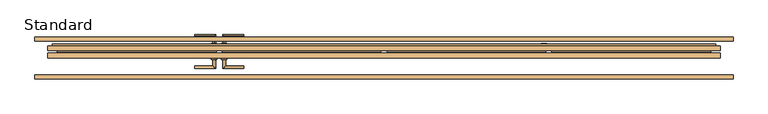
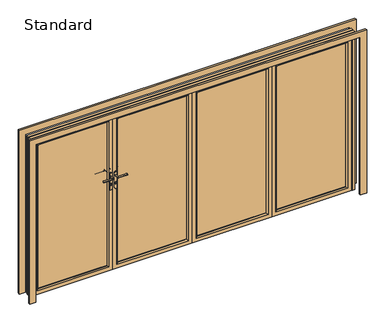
"""IFC4 building model written with IfcOpenShell, lengths in millimetres: door geometry, SMARTS_Visofold1000 : Standard."""

from ifc_helpers import new_model, si_unit, point, frame, frame_2d, origin, place, context, project, spatial, polyline, circle_curve, ellipse_curve, trimmed, segment, composite_curve, outline, extrude, faceted_brep, source, transform, mapped, element, save
from ifc_brep_helpers import plane_surface, cylinder_surface, advanced_brep


def standard_14ae69b2(model_context):
    return source(origin(), model_context, "Body", "SolidModel", [
        extrude(outline(composite_curve([segment(polyline([(1228.0996413, 934.0), (1040.0996413, 934.0)]), True, "CONTINUOUS"), segment(trimmed(circle_curve(frame_2d((1040.0996413, 950.0)), 16.0), [point((1040.0996413, 934.0))], [point((1040.0996413, 966.0))], False, "CARTESIAN"), True, "CONTINUOUS"), segment(polyline([(1040.0996413, 966.0), (1228.0996413, 966.0)]), True, "CONTINUOUS"), segment(trimmed(circle_curve(frame_2d((1228.0996413, 950.0)), 16.0), [point((1228.0996413, 966.0))], [point((1228.0996413, 934.0))], False, "CARTESIAN"), True, "CONTINUOUS")], self_intersect=False)), frame((0.0, 75.0, 0.0), z_axis=(0.0, 1.0, 0.0), x_axis=(0.0, 0.0, 1.0)), (0.0, 0.0, 1.0), 10.0),
        extrude(outline(polyline([(45.0, 935.0), (1955.0, 935.0), (1955.0, 45.0), (45.0, 45.0), (45.0, 935.0)]), holes=[polyline([(1939.5, 919.5), (60.5, 919.5), (60.5, 60.5), (1939.5, 60.5), (1939.5, 919.5)])]), frame((0.0, 17.4, 0.0), z_axis=(0.0, 1.0, 0.0), x_axis=(0.0, 0.0, 1.0)), (0.0, 0.0, 1.0), 35.0),
        faceted_brep([(980.0, 74.4, 0.0), (980.0, 74.4, 2000.0), (980.0, 52.4, 2000.0), (980.0, 52.4, 0.0), (919.5, 52.4, 60.5), (919.5, 52.4, 1939.5), (919.5, 74.4, 1939.5), (919.5, 74.4, 60.5), (0.0, 74.4, 2000.0), (0.0, 52.4, 2000.0), (60.5, 52.4, 1939.5), (60.5, 74.4, 1939.5), (0.0, 74.4, 0.0), (0.0, 52.4, 0.0), (60.5, 52.4, 60.5), (60.5, 74.4, 60.5), (962.1308519, 34.8, 17.8691481), (962.1308519, 34.8, 1982.1308519), (17.8691481, 34.8, 1982.1308519), (17.8691481, 34.8, 17.8691481), (935.0, 34.8, 1955.0), (935.0, 34.8, 45.0), (45.0, 34.8, 45.0), (45.0, 34.8, 1955.0), (962.1308519, 52.4, 17.8691481), (962.1308519, 52.4, 1982.1308519), (935.0, 52.4, 1955.0), (935.0, 52.4, 45.0), (17.8691481, 52.4, 1982.1308519), (45.0, 52.4, 1955.0), (17.8691481, 52.4, 17.8691481), (45.0, 52.4, 45.0)], [[[0, 1, 2, 3]], [[4, 5, 6, 7]], [[1, 8, 9, 2]], [[5, 10, 11, 6]], [[8, 12, 13, 9]], [[10, 14, 15, 11]], [[12, 0, 3, 13]], [[1, 0, 12, 8], [7, 6, 11, 15]], [[14, 4, 7, 15]], [[16, 17, 18, 19], [20, 21, 22, 23]], [[24, 25, 17, 16]], [[21, 20, 26, 27]], [[25, 28, 18, 17]], [[20, 23, 29, 26]], [[28, 30, 19, 18]], [[23, 22, 31, 29]], [[30, 24, 16, 19]], [[3, 2, 9, 13], [25, 24, 30, 28]], [[27, 26, 29, 31], [5, 4, 14, 10]], [[22, 21, 27, 31]]]),
        advanced_brep(
        [(919.5, 13.3, 60.5), (919.5, 13.3, 1939.5), (919.5, 17.4, 1939.5), (919.5, 17.4, 60.5), (980.0, 17.4, 0.0), (980.0, 17.4, 2000.0), (980.0, 0.0, 2000.0), (980.0, 0.0, 0.0), (60.5, 13.3, 1939.5), (60.5, 17.4, 1939.5), (0.0, 17.4, 2000.0), (0.0, 0.0, 2000.0), (60.5, 13.3, 60.5), (60.5, 17.4, 60.5), (0.0, 17.4, 0.0), (0.0, 0.0, 0.0), (932.8, 0.0, 1952.8), (932.8, 0.0, 47.2), (47.2, 0.0, 47.2), (47.2, 0.0, 1952.8), (962.1308519, 34.8, 17.8691481), (962.1308519, 34.8, 1982.1308519), (962.1308519, 17.4, 1982.1308519), (962.1308519, 17.4, 17.8691481), (17.8691481, 34.8, 1982.1308519), (17.8691481, 17.4, 1982.1308519), (17.8691481, 34.8, 17.8691481), (17.8691481, 17.4, 17.8691481), (935.0, 17.4, 45.0), (935.0, 17.4, 1955.0), (935.0, 34.8, 1955.0), (935.0, 34.8, 45.0), (45.0, 17.4, 1955.0), (45.0, 34.8, 1955.0), (45.0, 17.4, 45.0), (45.0, 34.8, 45.0)],
        [
            (0, 1),
            (1, 2),
            (2, 3),
            (3, 0),
            (4, 5),
            (5, 6),
            (6, 7),
            (7, 4),
            (1, 8),
            (8, 9),
            (9, 2),
            (5, 10),
            (10, 11),
            (11, 6),
            (8, 12),
            (12, 13),
            (13, 9),
            (10, 14),
            (14, 15),
            (15, 11),
            (12, 0),
            (3, 13),
            (15, 7),
            (16, 17),
            (17, 18),
            (18, 19),
            (19, 16),
            (14, 4),
            (16, 1, ellipse_curve(frame((932.8, 13.3, 1952.8), z_axis=(0.707106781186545, 0.0, -0.7071067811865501), x_axis=(-0.7071067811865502, 0.0, -0.7071067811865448)), 18.8090404, 13.3)),
            (0, 17, ellipse_curve(frame((932.8, 13.3, 47.2), z_axis=(0.70710678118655, 0.0, 0.707106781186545), x_axis=(0.7071067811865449, 0.0, -0.7071067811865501)), 18.8090404, 13.3)),
            (19, 8, ellipse_curve(frame((47.2, 13.3, 1952.8), z_axis=(0.7071067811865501, 0.0, 0.707106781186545), x_axis=(0.7071067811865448, 0.0, -0.7071067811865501)), 18.8090404, 13.3)),
            (18, 12, ellipse_curve(frame((47.2, 13.3, 47.2), z_axis=(-0.707106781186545, 0.0, 0.7071067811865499), x_axis=(0.7071067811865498, 0.0, 0.7071067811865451)), 18.8090404, 13.3)),
            (20, 21),
            (21, 22),
            (22, 23),
            (23, 20),
            (21, 24),
            (24, 25),
            (25, 22),
            (24, 26),
            (26, 27),
            (27, 25),
            (27, 23),
            (26, 20),
            (28, 29),
            (29, 30),
            (30, 31),
            (31, 28),
            (29, 32),
            (32, 33),
            (33, 30),
            (32, 34),
            (34, 35),
            (35, 33),
            (34, 28),
            (31, 35),
        ],
        [
            plane_surface(frame((919.5, 17.4, 60.5), z_axis=(-1.0, 0.0, 0.0), x_axis=(0.0, 0.0, 1.0))),
            plane_surface(frame((980.0, 0.0, 0.0), z_axis=(1.0, 0.0, 0.0), x_axis=(0.0, 0.0, 1.0))),
            plane_surface(frame((919.5, 17.4, 1939.5), z_axis=(0.0, 0.0, -1.0), x_axis=(-1.0, 0.0, 0.0))),
            plane_surface(frame((980.0, 0.0, 2000.0), z_axis=(0.0, 0.0, 1.0), x_axis=(-1.0, 0.0, 0.0))),
            plane_surface(frame((60.5, 17.4, 1939.5), z_axis=(1.0, 0.0, 0.0), x_axis=(0.0, 0.0, -1.0))),
            plane_surface(frame((0.0, 0.0, 2000.0), z_axis=(-1.0, 0.0, 0.0), x_axis=(0.0, 0.0, -1.0))),
            plane_surface(frame((60.5, 17.4, 60.5), z_axis=(0.0, 0.0, 1.0), x_axis=(1.0, 0.0, 0.0))),
            plane_surface(frame((47.2, 0.0, 47.2), z_axis=(0.0, -1.0, 0.0), x_axis=(1.0, 0.0, 0.0))),
            plane_surface(frame((0.0, 0.0, 0.0), z_axis=(0.0, 0.0, -1.0), x_axis=(1.0, 0.0, 0.0))),
            cylinder_surface(frame((932.8, 13.3, 0.0), z_axis=(0.0, 0.0, -1.0), x_axis=(0.0, 1.0, 0.0)), 13.3),
            cylinder_surface(frame((980.0, 13.3, 1952.8), z_axis=(1.0, 0.0, 0.0), x_axis=(0.0, 1.0, 0.0)), 13.3),
            cylinder_surface(frame((47.2, 13.3, 2000.0), z_axis=(0.0, 0.0, 1.0), x_axis=(0.0, 1.0, 0.0)), 13.3),
            cylinder_surface(frame((0.0, 13.3, 47.2), z_axis=(-1.0, 0.0, 0.0), x_axis=(0.0, 1.0, 0.0)), 13.3),
            plane_surface(frame((962.1308519, 17.4, 17.8691481), z_axis=(1.0, 0.0, 0.0), x_axis=(0.0, 0.0, 1.0))),
            plane_surface(frame((962.1308519, 17.4, 1982.1308519), z_axis=(0.0, 0.0, 1.0), x_axis=(-1.0, 0.0, 0.0))),
            plane_surface(frame((17.8691481, 17.4, 1982.1308519), z_axis=(-1.0, 0.0, 0.0), x_axis=(0.0, 0.0, -1.0))),
            plane_surface(frame((0.0, 17.4, 0.0), z_axis=(0.0, 1.0, 0.0), x_axis=(1.0, 0.0, 0.0))),
            plane_surface(frame((17.8691481, 17.4, 17.8691481), z_axis=(0.0, 0.0, -1.0), x_axis=(1.0, 0.0, 0.0))),
            plane_surface(frame((935.0, 34.8, 45.0), z_axis=(-1.0, 0.0, 0.0), x_axis=(0.0, 0.0, 1.0))),
            plane_surface(frame((935.0, 34.8, 1955.0), z_axis=(0.0, 0.0, -1.0), x_axis=(-1.0, 0.0, 0.0))),
            plane_surface(frame((45.0, 34.8, 1955.0), z_axis=(1.0, 0.0, 0.0), x_axis=(0.0, 0.0, -1.0))),
            plane_surface(frame((45.0, 34.8, 45.0), z_axis=(0.0, 0.0, 1.0), x_axis=(1.0, 0.0, 0.0))),
            plane_surface(frame((45.0, 17.4, 45.0), z_axis=(0.0, 1.0, 0.0), x_axis=(1.0, 0.0, 0.0))),
            plane_surface(frame((17.8691481, 34.8, 17.8691481), z_axis=(0.0, 1.0, 0.0), x_axis=(1.0, 0.0, 0.0))),
        ],
        [
            (0, [[1, 2, 3, 4]]),
            (1, [[5, 6, 7, 8]]),
            (2, [[9, 10, 11, -2]]),
            (3, [[12, 13, 14, -6]]),
            (4, [[15, 16, 17, -10]]),
            (5, [[18, 19, 20, -13]]),
            (6, [[21, -4, 22, -16]]),
            (7, [[-7, -14, -20, 23], [24, 25, 26, 27]]),
            (8, [[28, -8, -23, -19]]),
            (9, [[-24, 29, -1, 30]]),
            (10, [[-27, 31, -9, -29]]),
            (11, [[-26, 32, -15, -31]]),
            (12, [[-25, -30, -21, -32]]),
            (13, [[33, 34, 35, 36]]),
            (14, [[37, 38, 39, -34]]),
            (15, [[40, 41, 42, -38]]),
            (16, [[-5, -28, -18, -12], [-35, -39, -42, 43]]),
            (17, [[44, -36, -43, -41]]),
            (18, [[45, 46, 47, 48]]),
            (19, [[49, 50, 51, -46]]),
            (20, [[52, 53, 54, -50]]),
            (21, [[55, -48, 56, -53]]),
            (22, [[-45, -55, -52, -49], [-3, -11, -17, -22]]),
            (23, [[-33, -44, -40, -37], [-47, -51, -54, -56]]),
        ],
    ),
        extrude(outline(polyline([(919.5, 50.1484783), (919.5, 21.4), (60.5, 21.4), (60.5, 50.1484783), (919.5, 50.1484783)])), frame((0.0, 0.0, 60.5), z_axis=(0.0, 0.0, 1.0), x_axis=(1.0, 0.0, 0.0)), (0.0, 0.0, 1.0), 1879.0),
        advanced_brep(
        [(-950.0, 75.0, 1232.5996413), (-950.0, 75.0, 1215.5996413), (-950.0, 130.0, 1215.5996413), (-950.0, 130.0, 1232.5996413), (-835.0, 130.0, 1232.5996413), (-835.0, 130.0, 1215.5996413)],
        [
            (0, 1, circle_curve(frame((-950.0, 75.0, 1224.0996413), z_axis=(0.0, -1.0, 0.0), x_axis=(0.0, 0.0, -1.0)), 8.5)),
            (1, 0, circle_curve(frame((-950.0, 75.0, 1224.0996413), z_axis=(0.0, -1.0, 0.0), x_axis=(0.0, 0.0, -1.0)), 8.5)),
            (1, 2),
            (2, 3, ellipse_curve(frame((-950.0, 130.0, 1224.0996413), z_axis=(-0.7071067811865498, -0.7071067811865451, 0.0), x_axis=(0.707106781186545, -0.70710678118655, 0.0)), 12.0208153, 8.5)),
            (3, 0),
            (3, 2, ellipse_curve(frame((-950.0, 130.0, 1224.0996413), z_axis=(-0.7071067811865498, -0.7071067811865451, 0.0), x_axis=(0.707106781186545, -0.70710678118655, 0.0)), 12.0208153, 8.5)),
            (4, 5, circle_curve(frame((-835.0, 130.0, 1224.0996413), z_axis=(1.0, 0.0, 0.0), x_axis=(0.0, 0.0, -1.0)), 8.5)),
            (5, 4, circle_curve(frame((-835.0, 130.0, 1224.0996413), z_axis=(1.0, 0.0, 0.0), x_axis=(0.0, 0.0, -1.0)), 8.5)),
            (2, 5),
            (4, 3),
        ],
        [
            plane_surface(frame((-950.0, 75.0, 1224.0996413), z_axis=(0.0, -1.0, 0.0), x_axis=(0.0, 0.0, -1.0))),
            cylinder_surface(frame((-950.0, 75.0, 1224.0996413), z_axis=(0.0, -1.0, 0.0), x_axis=(0.0, 0.0, -1.0)), 8.5),
            plane_surface(frame((-835.0, 130.0, 1224.0996413), z_axis=(1.0, 0.0, 0.0), x_axis=(0.0, 0.0, -1.0))),
            cylinder_surface(frame((-950.0, 130.0, 1224.0996413), z_axis=(-1.0, 0.0, 0.0), x_axis=(0.0, 0.0, -1.0)), 8.5),
        ],
        [
            (0, [[1, 2]]),
            (1, [[-2, 3, 4, 5]]),
            (1, [[-1, -5, 6, -3]]),
            (2, [[7, 8]]),
            (3, [[-4, 9, -7, 10]]),
            (3, [[-6, -10, -8, -9]]),
        ],
    ),
        extrude(outline(composite_curve([segment(trimmed(circle_curve(frame_2d((1258.0996413, -950.0)), 16.0), [point((1258.0996413, -934.0))], [point((1258.0996413, -966.0))], False, "CARTESIAN"), True, "CONTINUOUS"), segment(polyline([(1258.0996413, -966.0), (1070.0996413, -966.0)]), True, "CONTINUOUS"), segment(trimmed(circle_curve(frame_2d((1070.0996413, -950.0)), 16.0), [point((1070.0996413, -966.0))], [point((1070.0996413, -934.0))], False, "CARTESIAN"), True, "CONTINUOUS"), segment(polyline([(1070.0996413, -934.0), (1258.0996413, -934.0)]), True, "CONTINUOUS")], self_intersect=False)), frame((0.0, 75.0, 0.0), z_axis=(0.0, 1.0, 0.0), x_axis=(0.0, 0.0, 1.0)), (0.0, 0.0, 1.0), 10.0),
        advanced_brep(
        [(-941.5, 0.0, 1224.0996413), (-958.5, 0.0, 1224.0996413), (-941.5, -46.5, 1224.0996413), (-958.5, -63.5, 1224.0996413), (-835.0, -46.5, 1224.0996413), (-835.0, -63.5, 1224.0996413)],
        [
            (0, 1, circle_curve(frame((-950.0, 0.0, 1224.0996413), z_axis=(0.0, 1.0, 0.0), x_axis=(-1.0, 0.0, 0.0)), 8.5)),
            (1, 0, circle_curve(frame((-950.0, 0.0, 1224.0996413), z_axis=(0.0, 1.0, 0.0), x_axis=(-1.0, 0.0, 0.0)), 8.5)),
            (0, 2),
            (2, 3, ellipse_curve(frame((-950.0, -55.0, 1224.0996413), z_axis=(-0.7071067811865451, 0.7071067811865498, 0.0), x_axis=(0.7071067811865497, 0.7071067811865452, 0.0)), 12.0208153, 8.5)),
            (3, 1),
            (3, 2, ellipse_curve(frame((-950.0, -55.0, 1224.0996413), z_axis=(-0.7071067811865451, 0.7071067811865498, 0.0), x_axis=(0.7071067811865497, 0.7071067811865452, 0.0)), 12.0208153, 8.5)),
            (4, 5, circle_curve(frame((-835.0, -55.0, 1224.0996413), z_axis=(1.0, 0.0, 0.0), x_axis=(0.0, -1.0, 0.0)), 8.5)),
            (5, 4, circle_curve(frame((-835.0, -55.0, 1224.0996413), z_axis=(1.0, 0.0, 0.0), x_axis=(0.0, -1.0, 0.0)), 8.5)),
            (2, 4),
            (5, 3),
        ],
        [
            plane_surface(frame((-950.0, 0.0, 1224.0996413), z_axis=(0.0, 1.0, 0.0), x_axis=(0.0, 0.0, -1.0))),
            cylinder_surface(frame((-950.0, 0.0, 1224.0996413), z_axis=(0.0, 1.0, 0.0), x_axis=(-1.0, 0.0, 0.0)), 8.5),
            plane_surface(frame((-835.0, -55.0, 1224.0996413), z_axis=(1.0, 0.0, 0.0), x_axis=(0.0, 0.0, -1.0))),
            cylinder_surface(frame((-950.0, -55.0, 1224.0996413), z_axis=(-1.0, 0.0, 0.0), x_axis=(0.0, -1.0, 0.0)), 8.5),
        ],
        [
            (0, [[1, 2]]),
            (1, [[-1, 3, 4, 5]]),
            (1, [[-2, -5, 6, -3]]),
            (2, [[7, 8]]),
            (3, [[-4, 9, -8, 10]]),
            (3, [[-6, -10, -7, -9]]),
        ],
    ),
        extrude(outline(composite_curve([segment(trimmed(circle_curve(frame_2d((1258.0996413, -950.0)), 16.0), [point((1258.0996413, -934.0))], [point((1258.0996413, -966.0))], False, "CARTESIAN"), True, "CONTINUOUS"), segment(polyline([(1258.0996413, -966.0), (1070.0996413, -966.0)]), True, "CONTINUOUS"), segment(trimmed(circle_curve(frame_2d((1070.0996413, -950.0)), 16.0), [point((1070.0996413, -966.0))], [point((1070.0996413, -934.0))], False, "CARTESIAN"), True, "CONTINUOUS"), segment(polyline([(1070.0996413, -934.0), (1258.0996413, -934.0)]), True, "CONTINUOUS")], self_intersect=False)), frame((0.0, -10.0, 0.0), z_axis=(0.0, 1.0, 0.0), x_axis=(0.0, 0.0, 1.0)), (0.0, 0.0, 1.0), 10.0),
        extrude(outline(composite_curve([segment(trimmed(circle_curve(frame_2d((1132.0996413, -949.9428094)), 8.5), [point((1125.1769586, -945.0106229))], [point((1125.27562, -955.0106229))], False, "CARTESIAN"), True, "CONTINUOUS"), segment(polyline([(1125.27562, -955.0106229), (1117.5996413, -955.0106229)]), True, "CONTINUOUS"), segment(trimmed(circle_curve(frame_2d((1117.5996413, -950.0106229)), 5.0), [point((1117.5996413, -955.0106229))], [point((1117.5996413, -945.0106229))], False, "CARTESIAN"), True, "CONTINUOUS"), segment(polyline([(1117.5996413, -945.0106229), (1125.1769586, -945.0106229)]), True, "CONTINUOUS")], self_intersect=False)), frame((0.0, 85.0, 0.0), z_axis=(0.0, 1.0, 0.0), x_axis=(0.0, 0.0, 1.0)), (0.0, 0.0, 1.0), 2.0),
        extrude(outline(composite_curve([segment(trimmed(circle_curve(frame_2d((1132.0996413, -949.9428094)), 8.5), [point((1125.1769586, -945.0106229))], [point((1125.27562, -955.0106229))], False, "CARTESIAN"), True, "CONTINUOUS"), segment(polyline([(1125.27562, -955.0106229), (1117.5996413, -955.0106229)]), True, "CONTINUOUS"), segment(trimmed(circle_curve(frame_2d((1117.5996413, -950.0106229)), 5.0), [point((1117.5996413, -955.0106229))], [point((1117.5996413, -945.0106229))], False, "CARTESIAN"), True, "CONTINUOUS"), segment(polyline([(1117.5996413, -945.0106229), (1125.1769586, -945.0106229)]), True, "CONTINUOUS")], self_intersect=False)), frame((0.0, -12.0, 0.0), z_axis=(0.0, 1.0, 0.0), x_axis=(0.0, 0.0, 1.0)), (0.0, 0.0, 1.0), 2.0),
        extrude(outline(polyline([(45.0, -935.0), (45.0, -45.0), (1955.0, -45.0), (1955.0, -935.0), (45.0, -935.0)]), holes=[polyline([(1939.5, -919.5), (1939.5, -60.5), (60.5, -60.5), (60.5, -919.5), (1939.5, -919.5)])]), frame((0.0, 17.4, 0.0), z_axis=(0.0, 1.0, 0.0), x_axis=(0.0, 0.0, 1.0)), (0.0, 0.0, 1.0), 35.0),
        faceted_brep([(-980.0, 74.4, 0.0), (-980.0, 52.4, 0.0), (-980.0, 52.4, 2000.0), (-980.0, 74.4, 2000.0), (-919.5, 52.4, 60.5), (-919.5, 74.4, 60.5), (-919.5, 74.4, 1939.5), (-919.5, 52.4, 1939.5), (0.0, 52.4, 2000.0), (0.0, 74.4, 2000.0), (-60.5, 74.4, 1939.5), (-60.5, 52.4, 1939.5), (0.0, 52.4, 0.0), (0.0, 74.4, 0.0), (-60.5, 74.4, 60.5), (-60.5, 52.4, 60.5), (-962.1308519, 34.8, 17.8691481), (-17.8691481, 34.8, 17.8691481), (-17.8691481, 34.8, 1982.1308519), (-962.1308519, 34.8, 1982.1308519), (-935.0, 34.8, 1955.0), (-45.0, 34.8, 1955.0), (-45.0, 34.8, 45.0), (-935.0, 34.8, 45.0), (-962.1308519, 52.4, 17.8691481), (-962.1308519, 52.4, 1982.1308519), (-935.0, 52.4, 45.0), (-935.0, 52.4, 1955.0), (-17.8691481, 52.4, 1982.1308519), (-45.0, 52.4, 1955.0), (-17.8691481, 52.4, 17.8691481), (-45.0, 52.4, 45.0)], [[[0, 1, 2, 3]], [[4, 5, 6, 7]], [[3, 2, 8, 9]], [[7, 6, 10, 11]], [[9, 8, 12, 13]], [[11, 10, 14, 15]], [[13, 12, 1, 0]], [[3, 9, 13, 0], [5, 14, 10, 6]], [[15, 14, 5, 4]], [[16, 17, 18, 19], [20, 21, 22, 23]], [[24, 16, 19, 25]], [[23, 26, 27, 20]], [[25, 19, 18, 28]], [[20, 27, 29, 21]], [[28, 18, 17, 30]], [[21, 29, 31, 22]], [[30, 17, 16, 24]], [[1, 12, 8, 2], [25, 28, 30, 24]], [[26, 31, 29, 27], [7, 11, 15, 4]], [[22, 31, 26, 23]]]),
        advanced_brep(
        [(-919.5, 13.3, 60.5), (-919.5, 17.4, 60.5), (-919.5, 17.4, 1939.5), (-919.5, 13.3, 1939.5), (-980.0, 17.4, 0.0), (-980.0, 0.0, 0.0), (-980.0, 0.0, 2000.0), (-980.0, 17.4, 2000.0), (-60.5, 17.4, 1939.5), (-60.5, 13.3, 1939.5), (0.0, 0.0, 2000.0), (0.0, 17.4, 2000.0), (-60.5, 17.4, 60.5), (-60.5, 13.3, 60.5), (0.0, 0.0, 0.0), (0.0, 17.4, 0.0), (-932.8, 0.0, 1952.8), (-47.2, 0.0, 1952.8), (-47.2, 0.0, 47.2), (-932.8, 0.0, 47.2), (-962.1308519, 34.8, 17.8691481), (-962.1308519, 17.4, 17.8691481), (-962.1308519, 17.4, 1982.1308519), (-962.1308519, 34.8, 1982.1308519), (-17.8691481, 17.4, 1982.1308519), (-17.8691481, 34.8, 1982.1308519), (-17.8691481, 17.4, 17.8691481), (-17.8691481, 34.8, 17.8691481), (-935.0, 17.4, 45.0), (-935.0, 34.8, 45.0), (-935.0, 34.8, 1955.0), (-935.0, 17.4, 1955.0), (-45.0, 34.8, 1955.0), (-45.0, 17.4, 1955.0), (-45.0, 34.8, 45.0), (-45.0, 17.4, 45.0)],
        [
            (0, 1),
            (1, 2),
            (2, 3),
            (3, 0),
            (4, 5),
            (5, 6),
            (6, 7),
            (7, 4),
            (2, 8),
            (8, 9),
            (9, 3),
            (6, 10),
            (10, 11),
            (11, 7),
            (8, 12),
            (12, 13),
            (13, 9),
            (10, 14),
            (14, 15),
            (15, 11),
            (12, 1),
            (0, 13),
            (5, 14),
            (16, 17),
            (17, 18),
            (18, 19),
            (19, 16),
            (4, 15),
            (19, 0, ellipse_curve(frame((-932.8, 13.3, 47.2), z_axis=(-0.70710678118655, 0.0, 0.707106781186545), x_axis=(-0.7071067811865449, 0.0, -0.7071067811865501)), 18.8090404, 13.3)),
            (3, 16, ellipse_curve(frame((-932.8, 13.3, 1952.8), z_axis=(-0.707106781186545, 0.0, -0.7071067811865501), x_axis=(0.7071067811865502, 0.0, -0.7071067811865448)), 18.8090404, 13.3)),
            (9, 17, ellipse_curve(frame((-47.2, 13.3, 1952.8), z_axis=(-0.7071067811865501, 0.0, 0.707106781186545), x_axis=(-0.7071067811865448, 0.0, -0.7071067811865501)), 18.8090404, 13.3)),
            (13, 18, ellipse_curve(frame((-47.2, 13.3, 47.2), z_axis=(0.707106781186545, 0.0, 0.7071067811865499), x_axis=(-0.7071067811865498, 0.0, 0.7071067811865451)), 18.8090404, 13.3)),
            (20, 21),
            (21, 22),
            (22, 23),
            (23, 20),
            (22, 24),
            (24, 25),
            (25, 23),
            (24, 26),
            (26, 27),
            (27, 25),
            (21, 26),
            (20, 27),
            (28, 29),
            (29, 30),
            (30, 31),
            (31, 28),
            (30, 32),
            (32, 33),
            (33, 31),
            (32, 34),
            (34, 35),
            (35, 33),
            (34, 29),
            (28, 35),
        ],
        [
            plane_surface(frame((-919.5, 17.4, 60.5), z_axis=(1.0, 0.0, 0.0), x_axis=(0.0, 0.0, 1.0))),
            plane_surface(frame((-980.0, 0.0, 0.0), z_axis=(-1.0, 0.0, 0.0), x_axis=(0.0, 0.0, 1.0))),
            plane_surface(frame((-919.5, 17.4, 1939.5), z_axis=(0.0, 0.0, -1.0), x_axis=(1.0, 0.0, 0.0))),
            plane_surface(frame((-980.0, 0.0, 2000.0), z_axis=(0.0, 0.0, 1.0), x_axis=(1.0, 0.0, 0.0))),
            plane_surface(frame((-60.5, 17.4, 1939.5), z_axis=(-1.0, 0.0, 0.0), x_axis=(0.0, 0.0, -1.0))),
            plane_surface(frame((0.0, 0.0, 2000.0), z_axis=(1.0, 0.0, 0.0), x_axis=(0.0, 0.0, -1.0))),
            plane_surface(frame((-60.5, 17.4, 60.5), z_axis=(0.0, 0.0, 1.0), x_axis=(-1.0, 0.0, 0.0))),
            plane_surface(frame((-47.2, 0.0, 47.2), z_axis=(0.0, -1.0, 0.0), x_axis=(-1.0, 0.0, 0.0))),
            plane_surface(frame((0.0, 0.0, 0.0), z_axis=(0.0, 0.0, -1.0), x_axis=(-1.0, 0.0, 0.0))),
            cylinder_surface(frame((-932.8, 13.3, 0.0), z_axis=(0.0, 0.0, -1.0), x_axis=(0.0, 1.0, 0.0)), 13.3),
            cylinder_surface(frame((-980.0, 13.3, 1952.8), z_axis=(-1.0, 0.0, 0.0), x_axis=(0.0, 1.0, 0.0)), 13.3),
            cylinder_surface(frame((-47.2, 13.3, 2000.0), z_axis=(0.0, 0.0, 1.0), x_axis=(0.0, 1.0, 0.0)), 13.3),
            cylinder_surface(frame((0.0, 13.3, 47.2), z_axis=(1.0, 0.0, 0.0), x_axis=(0.0, 1.0, 0.0)), 13.3),
            plane_surface(frame((-962.1308519, 17.4, 17.8691481), z_axis=(-1.0, 0.0, 0.0), x_axis=(0.0, 0.0, 1.0))),
            plane_surface(frame((-962.1308519, 17.4, 1982.1308519), z_axis=(0.0, 0.0, 1.0), x_axis=(1.0, 0.0, 0.0))),
            plane_surface(frame((-17.8691481, 17.4, 1982.1308519), z_axis=(1.0, 0.0, 0.0), x_axis=(0.0, 0.0, -1.0))),
            plane_surface(frame((0.0, 17.4, 0.0), z_axis=(0.0, 1.0, 0.0), x_axis=(-1.0, 0.0, 0.0))),
            plane_surface(frame((-17.8691481, 17.4, 17.8691481), z_axis=(0.0, 0.0, -1.0), x_axis=(-1.0, 0.0, 0.0))),
            plane_surface(frame((-935.0, 34.8, 45.0), z_axis=(1.0, 0.0, 0.0), x_axis=(0.0, 0.0, 1.0))),
            plane_surface(frame((-935.0, 34.8, 1955.0), z_axis=(0.0, 0.0, -1.0), x_axis=(1.0, 0.0, 0.0))),
            plane_surface(frame((-45.0, 34.8, 1955.0), z_axis=(-1.0, 0.0, 0.0), x_axis=(0.0, 0.0, -1.0))),
            plane_surface(frame((-45.0, 34.8, 45.0), z_axis=(0.0, 0.0, 1.0), x_axis=(-1.0, 0.0, 0.0))),
            plane_surface(frame((-45.0, 17.4, 45.0), z_axis=(0.0, 1.0, 0.0), x_axis=(-1.0, 0.0, 0.0))),
            plane_surface(frame((-17.8691481, 34.8, 17.8691481), z_axis=(0.0, 1.0, 0.0), x_axis=(-1.0, 0.0, 0.0))),
        ],
        [
            (0, [[1, 2, 3, 4]]),
            (1, [[5, 6, 7, 8]]),
            (2, [[-3, 9, 10, 11]]),
            (3, [[-7, 12, 13, 14]]),
            (4, [[-10, 15, 16, 17]]),
            (5, [[-13, 18, 19, 20]]),
            (6, [[-16, 21, -1, 22]]),
            (7, [[23, -18, -12, -6], [24, 25, 26, 27]]),
            (8, [[-19, -23, -5, 28]]),
            (9, [[29, -4, 30, -27]]),
            (10, [[-30, -11, 31, -24]]),
            (11, [[-31, -17, 32, -25]]),
            (12, [[-32, -22, -29, -26]]),
            (13, [[33, 34, 35, 36]]),
            (14, [[-35, 37, 38, 39]]),
            (15, [[-38, 40, 41, 42]]),
            (16, [[-14, -20, -28, -8], [43, -40, -37, -34]]),
            (17, [[-41, -43, -33, 44]]),
            (18, [[45, 46, 47, 48]]),
            (19, [[-47, 49, 50, 51]]),
            (20, [[-50, 52, 53, 54]]),
            (21, [[-53, 55, -45, 56]]),
            (22, [[-51, -54, -56, -48], [-21, -15, -9, -2]]),
            (23, [[-39, -42, -44, -36], [-55, -52, -49, -46]]),
        ],
    ),
        extrude(outline(polyline([(-919.5, 50.1484783), (-60.5, 50.1484783), (-60.5, 21.4), (-919.5, 21.4), (-919.5, 50.1484783)])), frame((0.0, 0.0, 60.5), z_axis=(0.0, 0.0, 1.0), x_axis=(1.0, 0.0, 0.0)), (0.0, 0.0, 1.0), 1879.0),
        extrude(outline(polyline([(45.0, 1025.0), (45.0, 1915.0), (1955.0, 1915.0), (1955.0, 1025.0), (45.0, 1025.0)]), holes=[polyline([(1939.5, 1040.5), (1939.5, 1899.5), (60.5, 1899.5), (60.5, 1040.5), (1939.5, 1040.5)])]), frame((0.0, 17.4, 0.0), z_axis=(0.0, 1.0, 0.0), x_axis=(0.0, 0.0, 1.0)), (0.0, 0.0, 1.0), 35.0),
        faceted_brep([(980.0, 74.4, 0.0), (980.0, 52.4, 0.0), (980.0, 52.4, 2000.0), (980.0, 74.4, 2000.0), (1040.5, 52.4, 60.5), (1040.5, 74.4, 60.5), (1040.5, 74.4, 1939.5), (1040.5, 52.4, 1939.5), (1960.0, 74.4, 0.0), (1960.0, 52.4, 0.0), (1960.0, 52.4, 2000.0), (1960.0, 74.4, 2000.0), (1899.5, 74.4, 1939.5), (1899.5, 52.4, 1939.5), (1899.5, 74.4, 60.5), (1899.5, 52.4, 60.5), (997.8691481, 34.8, 17.8691481), (1942.1308519, 34.8, 17.8691481), (1942.1308519, 34.8, 1982.1308519), (997.8691481, 34.8, 1982.1308519), (1025.0, 34.8, 1955.0), (1915.0, 34.8, 1955.0), (1915.0, 34.8, 45.0), (1025.0, 34.8, 45.0), (997.8691481, 52.4, 17.8691481), (997.8691481, 52.4, 1982.1308519), (1025.0, 52.4, 45.0), (1025.0, 52.4, 1955.0), (1942.1308519, 52.4, 1982.1308519), (1915.0, 52.4, 1955.0), (1942.1308519, 52.4, 17.8691481), (1915.0, 52.4, 45.0)], [[[0, 1, 2, 3]], [[4, 5, 6, 7]], [[8, 9, 1, 0]], [[3, 2, 10, 11]], [[7, 6, 12, 13]], [[11, 10, 9, 8]], [[13, 12, 14, 15]], [[3, 11, 8, 0], [5, 14, 12, 6]], [[15, 14, 5, 4]], [[16, 17, 18, 19], [20, 21, 22, 23]], [[24, 16, 19, 25]], [[23, 26, 27, 20]], [[25, 19, 18, 28]], [[20, 27, 29, 21]], [[28, 18, 17, 30]], [[21, 29, 31, 22]], [[30, 17, 16, 24]], [[1, 9, 10, 2], [25, 28, 30, 24]], [[26, 31, 29, 27], [7, 13, 15, 4]], [[22, 31, 26, 23]]]),
        advanced_brep(
        [(1040.5, 13.3, 60.5), (1040.5, 17.4, 60.5), (1040.5, 17.4, 1939.5), (1040.5, 13.3, 1939.5), (980.0, 17.4, 0.0), (980.0, 0.0, 0.0), (980.0, 0.0, 2000.0), (980.0, 17.4, 2000.0), (1899.5, 17.4, 1939.5), (1899.5, 13.3, 1939.5), (1960.0, 0.0, 2000.0), (1960.0, 17.4, 2000.0), (1899.5, 17.4, 60.5), (1899.5, 13.3, 60.5), (1960.0, 0.0, 0.0), (1960.0, 17.4, 0.0), (1027.2, 0.0, 1952.8), (1912.8, 0.0, 1952.8), (1912.8, 0.0, 47.2), (1027.2, 0.0, 47.2), (997.8691481, 34.8, 17.8691481), (997.8691481, 17.4, 17.8691481), (997.8691481, 17.4, 1982.1308519), (997.8691481, 34.8, 1982.1308519), (1942.1308519, 17.4, 1982.1308519), (1942.1308519, 34.8, 1982.1308519), (1942.1308519, 17.4, 17.8691481), (1942.1308519, 34.8, 17.8691481), (1025.0, 17.4, 45.0), (1025.0, 34.8, 45.0), (1025.0, 34.8, 1955.0), (1025.0, 17.4, 1955.0), (1915.0, 34.8, 1955.0), (1915.0, 17.4, 1955.0), (1915.0, 34.8, 45.0), (1915.0, 17.4, 45.0)],
        [
            (0, 1),
            (1, 2),
            (2, 3),
            (3, 0),
            (4, 5),
            (5, 6),
            (6, 7),
            (7, 4),
            (2, 8),
            (8, 9),
            (9, 3),
            (6, 10),
            (10, 11),
            (11, 7),
            (8, 12),
            (12, 13),
            (13, 9),
            (10, 14),
            (14, 15),
            (15, 11),
            (12, 1),
            (0, 13),
            (5, 14),
            (16, 17),
            (17, 18),
            (18, 19),
            (19, 16),
            (4, 15),
            (19, 0, ellipse_curve(frame((1027.2, 13.3, 47.2), z_axis=(-0.70710678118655, 0.0, 0.707106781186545), x_axis=(-0.7071067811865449, 0.0, -0.7071067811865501)), 18.8090404, 13.3)),
            (3, 16, ellipse_curve(frame((1027.2, 13.3, 1952.8), z_axis=(-0.707106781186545, 0.0, -0.7071067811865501), x_axis=(0.7071067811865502, 0.0, -0.7071067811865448)), 18.8090404, 13.3)),
            (9, 17, ellipse_curve(frame((1912.8, 13.3, 1952.8), z_axis=(-0.7071067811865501, 0.0, 0.707106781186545), x_axis=(-0.7071067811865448, 0.0, -0.7071067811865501)), 18.8090404, 13.3)),
            (13, 18, ellipse_curve(frame((1912.8, 13.3, 47.2), z_axis=(0.707106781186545, 0.0, 0.7071067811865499), x_axis=(-0.7071067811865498, 0.0, 0.7071067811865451)), 18.8090404, 13.3)),
            (20, 21),
            (21, 22),
            (22, 23),
            (23, 20),
            (22, 24),
            (24, 25),
            (25, 23),
            (24, 26),
            (26, 27),
            (27, 25),
            (21, 26),
            (20, 27),
            (28, 29),
            (29, 30),
            (30, 31),
            (31, 28),
            (30, 32),
            (32, 33),
            (33, 31),
            (32, 34),
            (34, 35),
            (35, 33),
            (34, 29),
            (28, 35),
        ],
        [
            plane_surface(frame((1040.5, 17.4, 60.5), z_axis=(1.0, 0.0, 0.0), x_axis=(0.0, 0.0, 1.0))),
            plane_surface(frame((980.0, 0.0, 0.0), z_axis=(-1.0, 0.0, 0.0), x_axis=(0.0, 0.0, 1.0))),
            plane_surface(frame((1040.5, 17.4, 1939.5), z_axis=(0.0, 0.0, -1.0), x_axis=(1.0, 0.0, 0.0))),
            plane_surface(frame((980.0, 0.0, 2000.0), z_axis=(0.0, 0.0, 1.0), x_axis=(1.0, 0.0, 0.0))),
            plane_surface(frame((1899.5, 17.4, 1939.5), z_axis=(-1.0, 0.0, 0.0), x_axis=(0.0, 0.0, -1.0))),
            plane_surface(frame((1960.0, 0.0, 2000.0), z_axis=(1.0, 0.0, 0.0), x_axis=(0.0, 0.0, -1.0))),
            plane_surface(frame((1899.5, 17.4, 60.5), z_axis=(0.0, 0.0, 1.0), x_axis=(-1.0, 0.0, 0.0))),
            plane_surface(frame((1912.8, 0.0, 47.2), z_axis=(0.0, -1.0, 0.0), x_axis=(-1.0, 0.0, 0.0))),
            plane_surface(frame((1960.0, 0.0, 0.0), z_axis=(0.0, 0.0, -1.0), x_axis=(-1.0, 0.0, 0.0))),
            cylinder_surface(frame((1027.2, 13.3, 0.0), z_axis=(0.0, 0.0, -1.0), x_axis=(0.0, 1.0, 0.0)), 13.3),
            cylinder_surface(frame((980.0, 13.3, 1952.8), z_axis=(-1.0, 0.0, 0.0), x_axis=(0.0, 1.0, 0.0)), 13.3),
            cylinder_surface(frame((1912.8, 13.3, 2000.0), z_axis=(0.0, 0.0, 1.0), x_axis=(0.0, 1.0, 0.0)), 13.3),
            cylinder_surface(frame((1960.0, 13.3, 47.2), z_axis=(1.0, 0.0, 0.0), x_axis=(0.0, 1.0, 0.0)), 13.3),
            plane_surface(frame((997.8691481, 17.4, 17.8691481), z_axis=(-1.0, 0.0, 0.0), x_axis=(0.0, 0.0, 1.0))),
            plane_surface(frame((997.8691481, 17.4, 1982.1308519), z_axis=(0.0, 0.0, 1.0), x_axis=(1.0, 0.0, 0.0))),
            plane_surface(frame((1942.1308519, 17.4, 1982.1308519), z_axis=(1.0, 0.0, 0.0), x_axis=(0.0, 0.0, -1.0))),
            plane_surface(frame((1960.0, 17.4, 0.0), z_axis=(0.0, 1.0, 0.0), x_axis=(-1.0, 0.0, 0.0))),
            plane_surface(frame((1942.1308519, 17.4, 17.8691481), z_axis=(0.0, 0.0, -1.0), x_axis=(-1.0, 0.0, 0.0))),
            plane_surface(frame((1025.0, 34.8, 45.0), z_axis=(1.0, 0.0, 0.0), x_axis=(0.0, 0.0, 1.0))),
            plane_surface(frame((1025.0, 34.8, 1955.0), z_axis=(0.0, 0.0, -1.0), x_axis=(1.0, 0.0, 0.0))),
            plane_surface(frame((1915.0, 34.8, 1955.0), z_axis=(-1.0, 0.0, 0.0), x_axis=(0.0, 0.0, -1.0))),
            plane_surface(frame((1915.0, 34.8, 45.0), z_axis=(0.0, 0.0, 1.0), x_axis=(-1.0, 0.0, 0.0))),
            plane_surface(frame((1915.0, 17.4, 45.0), z_axis=(0.0, 1.0, 0.0), x_axis=(-1.0, 0.0, 0.0))),
            plane_surface(frame((1942.1308519, 34.8, 17.8691481), z_axis=(0.0, 1.0, 0.0), x_axis=(-1.0, 0.0, 0.0))),
        ],
        [
            (0, [[1, 2, 3, 4]]),
            (1, [[5, 6, 7, 8]]),
            (2, [[-3, 9, 10, 11]]),
            (3, [[-7, 12, 13, 14]]),
            (4, [[-10, 15, 16, 17]]),
            (5, [[-13, 18, 19, 20]]),
            (6, [[-16, 21, -1, 22]]),
            (7, [[23, -18, -12, -6], [24, 25, 26, 27]]),
            (8, [[-19, -23, -5, 28]]),
            (9, [[29, -4, 30, -27]]),
            (10, [[-30, -11, 31, -24]]),
            (11, [[-31, -17, 32, -25]]),
            (12, [[-32, -22, -29, -26]]),
            (13, [[33, 34, 35, 36]]),
            (14, [[-35, 37, 38, 39]]),
            (15, [[-38, 40, 41, 42]]),
            (16, [[-14, -20, -28, -8], [43, -40, -37, -34]]),
            (17, [[-41, -43, -33, 44]]),
            (18, [[45, 46, 47, 48]]),
            (19, [[-47, 49, 50, 51]]),
            (20, [[-50, 52, 53, 54]]),
            (21, [[-53, 55, -45, 56]]),
            (22, [[-51, -54, -56, -48], [-21, -15, -9, -2]]),
            (23, [[-39, -42, -44, -36], [-55, -52, -49, -46]]),
        ],
    ),
        extrude(outline(polyline([(1040.5, 50.1484783), (1899.5, 50.1484783), (1899.5, 21.4), (1040.5, 21.4), (1040.5, 50.1484783)])), frame((0.0, 0.0, 60.5), z_axis=(0.0, 0.0, 1.0), x_axis=(1.0, 0.0, 0.0)), (0.0, 0.0, 1.0), 1879.0),
        advanced_brep(
        [(-1010.0, 75.0, 1232.5996413), (-1010.0, 75.0, 1215.5996413), (-1010.0, 130.0, 1232.5996413), (-1010.0, 130.0, 1215.5996413), (-1125.0, 130.0, 1232.5996413), (-1125.0, 130.0, 1215.5996413)],
        [
            (0, 1, circle_curve(frame((-1010.0, 75.0, 1224.0996413), z_axis=(0.0, -1.0, 0.0), x_axis=(0.0, 0.0, -1.0)), 8.5)),
            (1, 0, circle_curve(frame((-1010.0, 75.0, 1224.0996413), z_axis=(0.0, -1.0, 0.0), x_axis=(0.0, 0.0, -1.0)), 8.5)),
            (0, 2),
            (2, 3, ellipse_curve(frame((-1010.0, 130.0, 1224.0996413), z_axis=(0.7071067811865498, -0.7071067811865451, 0.0), x_axis=(-0.707106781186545, -0.70710678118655, 0.0)), 12.0208153, 8.5)),
            (3, 1),
            (3, 2, ellipse_curve(frame((-1010.0, 130.0, 1224.0996413), z_axis=(0.7071067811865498, -0.7071067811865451, 0.0), x_axis=(-0.707106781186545, -0.70710678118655, 0.0)), 12.0208153, 8.5)),
            (4, 5, circle_curve(frame((-1125.0, 130.0, 1224.0996413), z_axis=(-1.0, 0.0, 0.0), x_axis=(0.0, 0.0, -1.0)), 8.5)),
            (5, 4, circle_curve(frame((-1125.0, 130.0, 1224.0996413), z_axis=(-1.0, 0.0, 0.0), x_axis=(0.0, 0.0, -1.0)), 8.5)),
            (2, 4),
            (5, 3),
        ],
        [
            plane_surface(frame((-1010.0, 75.0, 1224.0996413), z_axis=(0.0, -1.0, 0.0), x_axis=(0.0, 0.0, -1.0))),
            cylinder_surface(frame((-1010.0, 75.0, 1224.0996413), z_axis=(0.0, -1.0, 0.0), x_axis=(0.0, 0.0, -1.0)), 8.5),
            plane_surface(frame((-1125.0, 130.0, 1224.0996413), z_axis=(-1.0, 0.0, 0.0), x_axis=(0.0, 0.0, -1.0))),
            cylinder_surface(frame((-1010.0, 130.0, 1224.0996413), z_axis=(1.0, 0.0, 0.0), x_axis=(0.0, 0.0, -1.0)), 8.5),
        ],
        [
            (0, [[1, 2]]),
            (1, [[3, 4, 5, -1]]),
            (1, [[-5, 6, -3, -2]]),
            (2, [[7, 8]]),
            (3, [[9, -8, 10, -4]]),
            (3, [[-10, -7, -9, -6]]),
        ],
    ),
        extrude(outline(composite_curve([segment(polyline([(1258.0996413, -1026.0), (1070.0996413, -1026.0)]), True, "CONTINUOUS"), segment(trimmed(circle_curve(frame_2d((1070.0996413, -1010.0)), 16.0), [point((1070.0996413, -1026.0))], [point((1070.0996413, -994.0))], False, "CARTESIAN"), True, "CONTINUOUS"), segment(polyline([(1070.0996413, -994.0), (1258.0996413, -994.0)]), True, "CONTINUOUS"), segment(trimmed(circle_curve(frame_2d((1258.0996413, -1010.0)), 16.0), [point((1258.0996413, -994.0))], [point((1258.0996413, -1026.0))], False, "CARTESIAN"), True, "CONTINUOUS")], self_intersect=False)), frame((0.0, 75.0, 0.0), z_axis=(0.0, 1.0, 0.0), x_axis=(0.0, 0.0, 1.0)), (0.0, 0.0, 1.0), 10.0),
        advanced_brep(
        [(-1018.5, 0.0, 1224.0996413), (-1001.5, 0.0, 1224.0996413), (-1001.5, -63.5, 1224.0996413), (-1018.5, -46.5, 1224.0996413), (-1125.0, -46.5, 1224.0996413), (-1125.0, -63.5, 1224.0996413)],
        [
            (0, 1, circle_curve(frame((-1010.0, 0.0, 1224.0996413), z_axis=(0.0, 1.0, 0.0), x_axis=(1.0, 0.0, 0.0)), 8.5)),
            (1, 0, circle_curve(frame((-1010.0, 0.0, 1224.0996413), z_axis=(0.0, 1.0, 0.0), x_axis=(1.0, 0.0, 0.0)), 8.5)),
            (1, 2),
            (2, 3, ellipse_curve(frame((-1010.0, -55.0, 1224.0996413), z_axis=(0.7071067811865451, 0.7071067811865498, 0.0), x_axis=(-0.7071067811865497, 0.7071067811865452, 0.0)), 12.0208153, 8.5)),
            (3, 0),
            (3, 2, ellipse_curve(frame((-1010.0, -55.0, 1224.0996413), z_axis=(0.7071067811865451, 0.7071067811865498, 0.0), x_axis=(-0.7071067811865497, 0.7071067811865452, 0.0)), 12.0208153, 8.5)),
            (4, 5, circle_curve(frame((-1125.0, -55.0, 1224.0996413), z_axis=(-1.0, 0.0, 0.0), x_axis=(0.0, -1.0, 0.0)), 8.5)),
            (5, 4, circle_curve(frame((-1125.0, -55.0, 1224.0996413), z_axis=(-1.0, 0.0, 0.0), x_axis=(0.0, -1.0, 0.0)), 8.5)),
            (2, 5),
            (4, 3),
        ],
        [
            plane_surface(frame((-1010.0, 0.0, 1224.0996413), z_axis=(0.0, 1.0, 0.0), x_axis=(0.0, 0.0, -1.0))),
            cylinder_surface(frame((-1010.0, 0.0, 1224.0996413), z_axis=(0.0, 1.0, 0.0), x_axis=(1.0, 0.0, 0.0)), 8.5),
            plane_surface(frame((-1125.0, -55.0, 1224.0996413), z_axis=(-1.0, 0.0, 0.0), x_axis=(0.0, 0.0, -1.0))),
            cylinder_surface(frame((-1010.0, -55.0, 1224.0996413), z_axis=(1.0, 0.0, 0.0), x_axis=(0.0, -1.0, 0.0)), 8.5),
        ],
        [
            (0, [[1, 2]]),
            (1, [[3, 4, 5, -2]]),
            (1, [[-5, 6, -3, -1]]),
            (2, [[7, 8]]),
            (3, [[9, -7, 10, -4]]),
            (3, [[-10, -8, -9, -6]]),
        ],
    ),
        extrude(outline(composite_curve([segment(polyline([(1258.0996413, -1026.0), (1070.0996413, -1026.0)]), True, "CONTINUOUS"), segment(trimmed(circle_curve(frame_2d((1070.0996413, -1010.0)), 16.0), [point((1070.0996413, -1026.0))], [point((1070.0996413, -994.0))], False, "CARTESIAN"), True, "CONTINUOUS"), segment(polyline([(1070.0996413, -994.0), (1258.0996413, -994.0)]), True, "CONTINUOUS"), segment(trimmed(circle_curve(frame_2d((1258.0996413, -1010.0)), 16.0), [point((1258.0996413, -994.0))], [point((1258.0996413, -1026.0))], False, "CARTESIAN"), True, "CONTINUOUS")], self_intersect=False)), frame((0.0, -10.0, 0.0), z_axis=(0.0, 1.0, 0.0), x_axis=(0.0, 0.0, 1.0)), (0.0, 0.0, 1.0), 10.0),
        extrude(outline(composite_curve([segment(polyline([(1125.1769586, -1014.9893771), (1117.5996413, -1014.9893771)]), True, "CONTINUOUS"), segment(trimmed(circle_curve(frame_2d((1117.5996413, -1009.9893771)), 5.0), [point((1117.5996413, -1014.9893771))], [point((1117.5996413, -1004.9893771))], False, "CARTESIAN"), True, "CONTINUOUS"), segment(polyline([(1117.5996413, -1004.9893771), (1125.27562, -1004.9893771)]), True, "CONTINUOUS"), segment(trimmed(circle_curve(frame_2d((1132.0996413, -1010.0571906)), 8.5), [point((1125.27562, -1004.9893771))], [point((1125.1769586, -1014.9893771))], False, "CARTESIAN"), True, "CONTINUOUS")], self_intersect=False)), frame((0.0, 85.0, 0.0), z_axis=(0.0, 1.0, 0.0), x_axis=(0.0, 0.0, 1.0)), (0.0, 0.0, 1.0), 2.0),
        extrude(outline(composite_curve([segment(polyline([(1125.1769586, -1014.9893771), (1117.5996413, -1014.9893771)]), True, "CONTINUOUS"), segment(trimmed(circle_curve(frame_2d((1117.5996413, -1009.9893771)), 5.0), [point((1117.5996413, -1014.9893771))], [point((1117.5996413, -1004.9893771))], False, "CARTESIAN"), True, "CONTINUOUS"), segment(polyline([(1117.5996413, -1004.9893771), (1125.27562, -1004.9893771)]), True, "CONTINUOUS"), segment(trimmed(circle_curve(frame_2d((1132.0996413, -1010.0571906)), 8.5), [point((1125.27562, -1004.9893771))], [point((1125.1769586, -1014.9893771))], False, "CARTESIAN"), True, "CONTINUOUS")], self_intersect=False)), frame((0.0, -12.0, 0.0), z_axis=(0.0, 1.0, 0.0), x_axis=(0.0, 0.0, 1.0)), (0.0, 0.0, 1.0), 2.0),
        extrude(outline(polyline([(45.0, -1025.0), (1955.0, -1025.0), (1955.0, -1915.0), (45.0, -1915.0), (45.0, -1025.0)]), holes=[polyline([(1939.5, -1040.5), (60.5, -1040.5), (60.5, -1899.5), (1939.5, -1899.5), (1939.5, -1040.5)])]), frame((0.0, 17.4, 0.0), z_axis=(0.0, 1.0, 0.0), x_axis=(0.0, 0.0, 1.0)), (0.0, 0.0, 1.0), 35.0),
        faceted_brep([(-980.0, 74.4, 0.0), (-980.0, 74.4, 2000.0), (-980.0, 52.4, 2000.0), (-980.0, 52.4, 0.0), (-1040.5, 52.4, 60.5), (-1040.5, 52.4, 1939.5), (-1040.5, 74.4, 1939.5), (-1040.5, 74.4, 60.5), (-1960.0, 74.4, 0.0), (-1960.0, 52.4, 0.0), (-1960.0, 74.4, 2000.0), (-1960.0, 52.4, 2000.0), (-1899.5, 52.4, 1939.5), (-1899.5, 74.4, 1939.5), (-1899.5, 52.4, 60.5), (-1899.5, 74.4, 60.5), (-997.8691481, 34.8, 17.8691481), (-997.8691481, 34.8, 1982.1308519), (-1942.1308519, 34.8, 1982.1308519), (-1942.1308519, 34.8, 17.8691481), (-1025.0, 34.8, 1955.0), (-1025.0, 34.8, 45.0), (-1915.0, 34.8, 45.0), (-1915.0, 34.8, 1955.0), (-997.8691481, 52.4, 17.8691481), (-997.8691481, 52.4, 1982.1308519), (-1025.0, 52.4, 1955.0), (-1025.0, 52.4, 45.0), (-1942.1308519, 52.4, 1982.1308519), (-1915.0, 52.4, 1955.0), (-1942.1308519, 52.4, 17.8691481), (-1915.0, 52.4, 45.0)], [[[0, 1, 2, 3]], [[4, 5, 6, 7]], [[8, 0, 3, 9]], [[1, 10, 11, 2]], [[5, 12, 13, 6]], [[10, 8, 9, 11]], [[12, 14, 15, 13]], [[1, 0, 8, 10], [7, 6, 13, 15]], [[14, 4, 7, 15]], [[16, 17, 18, 19], [20, 21, 22, 23]], [[24, 25, 17, 16]], [[21, 20, 26, 27]], [[25, 28, 18, 17]], [[20, 23, 29, 26]], [[28, 30, 19, 18]], [[23, 22, 31, 29]], [[30, 24, 16, 19]], [[3, 2, 11, 9], [25, 24, 30, 28]], [[27, 26, 29, 31], [5, 4, 14, 12]], [[22, 21, 27, 31]]]),
        advanced_brep(
        [(-1040.5, 13.3, 60.5), (-1040.5, 13.3, 1939.5), (-1040.5, 17.4, 1939.5), (-1040.5, 17.4, 60.5), (-980.0, 17.4, 0.0), (-980.0, 17.4, 2000.0), (-980.0, 0.0, 2000.0), (-980.0, 0.0, 0.0), (-1899.5, 13.3, 1939.5), (-1899.5, 17.4, 1939.5), (-1960.0, 17.4, 2000.0), (-1960.0, 0.0, 2000.0), (-1899.5, 13.3, 60.5), (-1899.5, 17.4, 60.5), (-1960.0, 17.4, 0.0), (-1960.0, 0.0, 0.0), (-1027.2, 0.0, 1952.8), (-1027.2, 0.0, 47.2), (-1912.8, 0.0, 47.2), (-1912.8, 0.0, 1952.8), (-997.8691481, 34.8, 17.8691481), (-997.8691481, 34.8, 1982.1308519), (-997.8691481, 17.4, 1982.1308519), (-997.8691481, 17.4, 17.8691481), (-1942.1308519, 34.8, 1982.1308519), (-1942.1308519, 17.4, 1982.1308519), (-1942.1308519, 34.8, 17.8691481), (-1942.1308519, 17.4, 17.8691481), (-1025.0, 17.4, 45.0), (-1025.0, 17.4, 1955.0), (-1025.0, 34.8, 1955.0), (-1025.0, 34.8, 45.0), (-1915.0, 17.4, 1955.0), (-1915.0, 34.8, 1955.0), (-1915.0, 17.4, 45.0), (-1915.0, 34.8, 45.0)],
        [
            (0, 1),
            (1, 2),
            (2, 3),
            (3, 0),
            (4, 5),
            (5, 6),
            (6, 7),
            (7, 4),
            (1, 8),
            (8, 9),
            (9, 2),
            (5, 10),
            (10, 11),
            (11, 6),
            (8, 12),
            (12, 13),
            (13, 9),
            (10, 14),
            (14, 15),
            (15, 11),
            (12, 0),
            (3, 13),
            (15, 7),
            (16, 17),
            (17, 18),
            (18, 19),
            (19, 16),
            (14, 4),
            (16, 1, ellipse_curve(frame((-1027.2, 13.3, 1952.8), z_axis=(0.707106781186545, 0.0, -0.7071067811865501), x_axis=(-0.7071067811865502, 0.0, -0.7071067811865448)), 18.8090404, 13.3)),
            (0, 17, ellipse_curve(frame((-1027.2, 13.3, 47.2), z_axis=(0.70710678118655, 0.0, 0.707106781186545), x_axis=(0.7071067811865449, 0.0, -0.7071067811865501)), 18.8090404, 13.3)),
            (19, 8, ellipse_curve(frame((-1912.8, 13.3, 1952.8), z_axis=(0.7071067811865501, 0.0, 0.707106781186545), x_axis=(0.7071067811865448, 0.0, -0.7071067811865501)), 18.8090404, 13.3)),
            (18, 12, ellipse_curve(frame((-1912.8, 13.3, 47.2), z_axis=(-0.707106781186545, 0.0, 0.7071067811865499), x_axis=(0.7071067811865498, 0.0, 0.7071067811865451)), 18.8090404, 13.3)),
            (20, 21),
            (21, 22),
            (22, 23),
            (23, 20),
            (21, 24),
            (24, 25),
            (25, 22),
            (24, 26),
            (26, 27),
            (27, 25),
            (27, 23),
            (26, 20),
            (28, 29),
            (29, 30),
            (30, 31),
            (31, 28),
            (29, 32),
            (32, 33),
            (33, 30),
            (32, 34),
            (34, 35),
            (35, 33),
            (34, 28),
            (31, 35),
        ],
        [
            plane_surface(frame((-1040.5, 17.4, 60.5), z_axis=(-1.0, 0.0, 0.0), x_axis=(0.0, 0.0, 1.0))),
            plane_surface(frame((-980.0, 0.0, 0.0), z_axis=(1.0, 0.0, 0.0), x_axis=(0.0, 0.0, 1.0))),
            plane_surface(frame((-1040.5, 17.4, 1939.5), z_axis=(0.0, 0.0, -1.0), x_axis=(-1.0, 0.0, 0.0))),
            plane_surface(frame((-980.0, 0.0, 2000.0), z_axis=(0.0, 0.0, 1.0), x_axis=(-1.0, 0.0, 0.0))),
            plane_surface(frame((-1899.5, 17.4, 1939.5), z_axis=(1.0, 0.0, 0.0), x_axis=(0.0, 0.0, -1.0))),
            plane_surface(frame((-1960.0, 0.0, 2000.0), z_axis=(-1.0, 0.0, 0.0), x_axis=(0.0, 0.0, -1.0))),
            plane_surface(frame((-1899.5, 17.4, 60.5), z_axis=(0.0, 0.0, 1.0), x_axis=(1.0, 0.0, 0.0))),
            plane_surface(frame((-1912.8, 0.0, 47.2), z_axis=(0.0, -1.0, 0.0), x_axis=(1.0, 0.0, 0.0))),
            plane_surface(frame((-1960.0, 0.0, 0.0), z_axis=(0.0, 0.0, -1.0), x_axis=(1.0, 0.0, 0.0))),
            cylinder_surface(frame((-1027.2, 13.3, 0.0), z_axis=(0.0, 0.0, -1.0), x_axis=(0.0, 1.0, 0.0)), 13.3),
            cylinder_surface(frame((-980.0, 13.3, 1952.8), z_axis=(1.0, 0.0, 0.0), x_axis=(0.0, 1.0, 0.0)), 13.3),
            cylinder_surface(frame((-1912.8, 13.3, 2000.0), z_axis=(0.0, 0.0, 1.0), x_axis=(0.0, 1.0, 0.0)), 13.3),
            cylinder_surface(frame((-1960.0, 13.3, 47.2), z_axis=(-1.0, 0.0, 0.0), x_axis=(0.0, 1.0, 0.0)), 13.3),
            plane_surface(frame((-997.8691481, 17.4, 17.8691481), z_axis=(1.0, 0.0, 0.0), x_axis=(0.0, 0.0, 1.0))),
            plane_surface(frame((-997.8691481, 17.4, 1982.1308519), z_axis=(0.0, 0.0, 1.0), x_axis=(-1.0, 0.0, 0.0))),
            plane_surface(frame((-1942.1308519, 17.4, 1982.1308519), z_axis=(-1.0, 0.0, 0.0), x_axis=(0.0, 0.0, -1.0))),
            plane_surface(frame((-1960.0, 17.4, 0.0), z_axis=(0.0, 1.0, 0.0), x_axis=(1.0, 0.0, 0.0))),
            plane_surface(frame((-1942.1308519, 17.4, 17.8691481), z_axis=(0.0, 0.0, -1.0), x_axis=(1.0, 0.0, 0.0))),
            plane_surface(frame((-1025.0, 34.8, 45.0), z_axis=(-1.0, 0.0, 0.0), x_axis=(0.0, 0.0, 1.0))),
            plane_surface(frame((-1025.0, 34.8, 1955.0), z_axis=(0.0, 0.0, -1.0), x_axis=(-1.0, 0.0, 0.0))),
            plane_surface(frame((-1915.0, 34.8, 1955.0), z_axis=(1.0, 0.0, 0.0), x_axis=(0.0, 0.0, -1.0))),
            plane_surface(frame((-1915.0, 34.8, 45.0), z_axis=(0.0, 0.0, 1.0), x_axis=(1.0, 0.0, 0.0))),
            plane_surface(frame((-1915.0, 17.4, 45.0), z_axis=(0.0, 1.0, 0.0), x_axis=(1.0, 0.0, 0.0))),
            plane_surface(frame((-1942.1308519, 34.8, 17.8691481), z_axis=(0.0, 1.0, 0.0), x_axis=(1.0, 0.0, 0.0))),
        ],
        [
            (0, [[1, 2, 3, 4]]),
            (1, [[5, 6, 7, 8]]),
            (2, [[9, 10, 11, -2]]),
            (3, [[12, 13, 14, -6]]),
            (4, [[15, 16, 17, -10]]),
            (5, [[18, 19, 20, -13]]),
            (6, [[21, -4, 22, -16]]),
            (7, [[-7, -14, -20, 23], [24, 25, 26, 27]]),
            (8, [[28, -8, -23, -19]]),
            (9, [[-24, 29, -1, 30]]),
            (10, [[-27, 31, -9, -29]]),
            (11, [[-26, 32, -15, -31]]),
            (12, [[-25, -30, -21, -32]]),
            (13, [[33, 34, 35, 36]]),
            (14, [[37, 38, 39, -34]]),
            (15, [[40, 41, 42, -38]]),
            (16, [[-5, -28, -18, -12], [-35, -39, -42, 43]]),
            (17, [[44, -36, -43, -41]]),
            (18, [[45, 46, 47, 48]]),
            (19, [[49, 50, 51, -46]]),
            (20, [[52, 53, 54, -50]]),
            (21, [[55, -48, 56, -53]]),
            (22, [[-45, -55, -52, -49], [-3, -11, -17, -22]]),
            (23, [[-33, -44, -40, -37], [-47, -51, -54, -56]]),
        ],
    ),
        extrude(outline(polyline([(-1040.5, 50.1484783), (-1040.5, 21.4), (-1899.5, 21.4), (-1899.5, 50.1484783), (-1040.5, 50.1484783)])), frame((0.0, 0.0, 60.5), z_axis=(0.0, 0.0, 1.0), x_axis=(1.0, 0.0, 0.0)), (0.0, 0.0, 1.0), 1879.0),
        extrude(outline(polyline([(2058.6516063, -2000.0), (2058.6516063, 2000.0), (0.0, 2000.0), (0.0, 2075.0), (2133.6516063, 2075.0), (2133.6516063, -2075.0), (0.0, -2075.0), (0.0, -2000.0), (2058.6516063, -2000.0)])), frame((0.0, 100.0, 0.0), z_axis=(0.0, 1.0, 0.0), x_axis=(0.0, 0.0, 1.0)), (0.0, 0.0, 1.0), 25.0),
        extrude(outline(polyline([(2133.6516063, -2075.0), (0.0, -2075.0), (0.0, -2000.0), (2058.6516063, -2000.0), (2058.6516063, 2000.0), (0.0, 2000.0), (0.0, 2075.0), (2133.6516063, 2075.0), (2133.6516063, -2075.0)])), frame((0.0, -125.0, 0.0), z_axis=(0.0, 1.0, 0.0), x_axis=(0.0, 0.0, 1.0)), (0.0, 0.0, 1.0), 25.0),
        extrude(outline(polyline([(0.0, 1968.8), (0.0, 2000.0), (2058.6516063, 2000.0), (2058.6516063, -2000.0), (0.0, -2000.0), (0.0, -1968.8), (2027.4516063, -1968.8), (2027.4516063, 1968.8), (0.0, 1968.8)])), frame((0.0, 0.0, 0.0), z_axis=(0.0, 1.0, 0.0), x_axis=(0.0, 0.0, 1.0)), (0.0, 0.0, 1.0), 29.65),
        faceted_brep([(2000.0, 44.85, 0.0), (1968.8, 44.85, 0.0), (1968.8, 77.4, 0.0), (1948.3, 77.4, 0.0), (1948.3, 81.9, 0.0), (1970.6, 81.9, 0.0), (1970.6, 70.0, 0.0), (2000.0, 70.0, 0.0), (2000.0, 44.85, 2058.6516063), (-2000.0, 44.85, 2058.6516063), (-2000.0, 44.85, 0.0), (-1968.8, 44.85, 0.0), (-1968.8, 44.85, 2027.4516063), (1968.8, 44.85, 2027.4516063), (1968.8, 77.4, 2027.4516063), (-1968.8, 77.4, 2027.4516063), (-1968.8, 77.4, 0.0), (-1948.3, 77.4, 0.0), (-1948.3, 77.4, 2006.9516063), (1948.3, 77.4, 2006.9516063), (1948.3, 81.9, 2006.9516063), (-1948.3, 81.9, 2006.9516063), (-1948.3, 81.9, 0.0), (-1970.6, 81.9, 0.0), (-1970.6, 81.9, 2029.2516063), (1970.6, 81.9, 2029.2516063), (1970.6, 70.0, 2029.2516063), (-1970.6, 70.0, 2029.2516063), (-1970.6, 70.0, 0.0), (-2000.0, 70.0, 0.0), (-2000.0, 70.0, 2058.6516063), (2000.0, 70.0, 2058.6516063)], [[[0, 1, 2, 3, 4, 5, 6, 7]], [[1, 0, 8, 9, 10, 11, 12, 13]], [[2, 1, 13, 14]], [[3, 2, 14, 15, 16, 17, 18, 19]], [[4, 3, 19, 20]], [[5, 4, 20, 21, 22, 23, 24, 25]], [[6, 5, 25, 26]], [[7, 6, 26, 27, 28, 29, 30, 31]], [[0, 7, 31, 8]], [[10, 29, 28, 23, 22, 17, 16, 11]], [[9, 30, 29, 10]], [[27, 24, 23, 28]], [[21, 18, 17, 22]], [[15, 12, 11, 16]], [[8, 31, 30, 9]], [[14, 13, 12, 15]], [[26, 25, 24, 27]], [[20, 19, 18, 21]]]),
    ])


if __name__ == "__main__":
    model = new_model("IFC4")
    model_context = context("Model", 3, world=origin())
    ifc_project = project(units=[si_unit("LENGTHUNIT", "METRE", prefix="MILLI")], contexts=[model_context])
    site = spatial("IfcSite", under=ifc_project)
    building = spatial("IfcBuilding", under=site)
    placement = place(None, origin())
    standard_shape = standard_14ae69b2(model_context)
    element("IfcDoor", 1, ObjectType="SMARTS_Visofold1000 : Standard", at=placement, inside=building, context=model_context, shape_type="MappedRepresentation", body=[
        mapped(standard_shape, transform((0.0, 0.0, 0.0), x_axis=(1.0, 0.0, 0.0), y_axis=(0.0, 1.0, 0.0), z_axis=(0.0, 0.0, 1.0))),
    ])
    save(model, "model.ifc")
